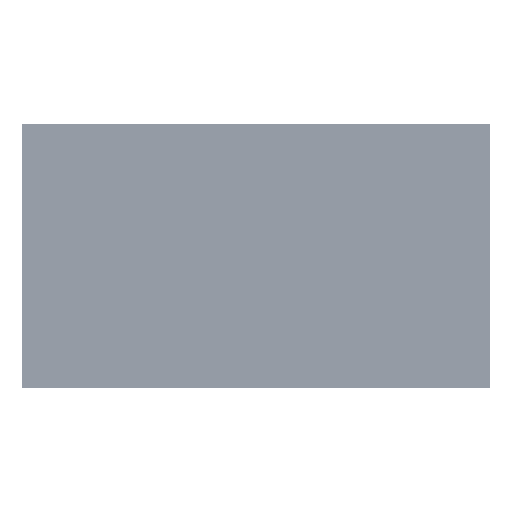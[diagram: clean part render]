
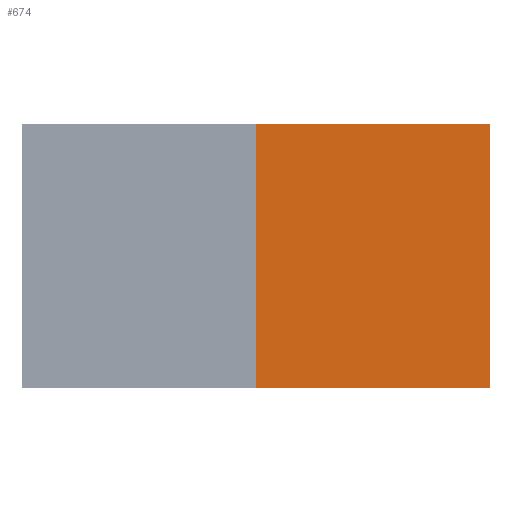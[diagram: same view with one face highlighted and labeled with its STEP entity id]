
A CAD part, top view. The second image highlights one B-rep face of the part: STEP entity #674.
In plain terms, the highlighted planar face has unit normal (0, 0, 1).
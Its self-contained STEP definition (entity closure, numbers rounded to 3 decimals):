
#674=ADVANCED_FACE($,(#982),#4176,.T.);
#982=FACE_OUTER_BOUND($,#1290,.T.);
#1290=EDGE_LOOP($,(#1702,#1703,#1704,#1705));
#1702=ORIENTED_EDGE($,*,*,#3055,.T.);
#1703=ORIENTED_EDGE($,*,*,#3049,.F.);
#1704=ORIENTED_EDGE($,*,*,#3048,.F.);
#1705=ORIENTED_EDGE($,*,*,#3057,.F.);
#3048=EDGE_CURVE($,#3728,#3729,#4282,.T.);
#3049=EDGE_CURVE($,#3729,#3732,#4283,.T.);
#3055=EDGE_CURVE($,#3731,#3732,#4289,.T.);
#3057=EDGE_CURVE($,#3731,#3728,#4291,.T.);
#3728=VERTEX_POINT($,#5022);
#3729=VERTEX_POINT($,#5023);
#3731=VERTEX_POINT($,#5025);
#3732=VERTEX_POINT($,#5026);
#4176=PLANE($,#4744);
#4282=B_SPLINE_CURVE_WITH_KNOTS($,1,(#4966,#4967),.UNSPECIFIED.,.F.,.F.,
(2,2),(0.,900.),.UNSPECIFIED.);
#4283=B_SPLINE_CURVE_WITH_KNOTS($,1,(#4968,#4969),.UNSPECIFIED.,.F.,.F.,
(2,2),(0.,800.),.UNSPECIFIED.);
#4289=B_SPLINE_CURVE_WITH_KNOTS($,3,(#4986,#4987,#4988,#4989),.UNSPECIFIED.,
.F.,.F.,(4,4),(0.,900.),.UNSPECIFIED.);
#4291=B_SPLINE_CURVE_WITH_KNOTS($,1,(#4992,#4993),.UNSPECIFIED.,.F.,.F.,
(2,2),(1000.,1800.),.UNSPECIFIED.);
#4744=AXIS2_PLACEMENT_3D($,#5014,#4855,$);
#4855=DIRECTION($,(0.,0.,1.));
#4966=CARTESIAN_POINT($,(1994.5,829.,746.));
#4967=CARTESIAN_POINT($,(1994.5,-71.,746.));
#4968=CARTESIAN_POINT($,(1994.5,-71.,746.));
#4969=CARTESIAN_POINT($,(1194.5,-71.,746.));
#4986=CARTESIAN_POINT($,(1194.5,829.,746.));
#4987=CARTESIAN_POINT($,(1194.5,529.,746.));
#4988=CARTESIAN_POINT($,(1194.5,229.,746.));
#4989=CARTESIAN_POINT($,(1194.5,-71.,746.));
#4992=CARTESIAN_POINT($,(1194.5,829.,746.));
#4993=CARTESIAN_POINT($,(1994.5,829.,746.));
#5014=CARTESIAN_POINT($,(1194.5,-71.,746.));
#5022=CARTESIAN_POINT($,(1994.5,829.,746.));
#5023=CARTESIAN_POINT($,(1994.5,-71.,746.));
#5025=CARTESIAN_POINT($,(1194.5,829.,746.));
#5026=CARTESIAN_POINT($,(1194.5,-71.,746.));
